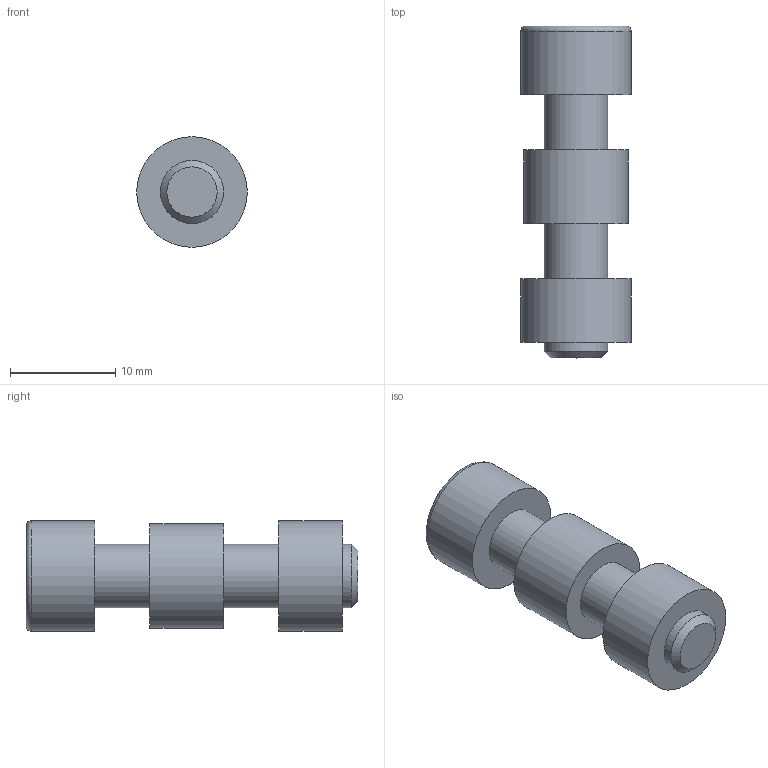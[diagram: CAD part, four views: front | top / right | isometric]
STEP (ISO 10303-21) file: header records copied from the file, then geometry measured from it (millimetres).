
FILE_DESCRIPTION( ( 'STEP AP203' ), '1' );
FILE_NAME( 'C:/Temp/Ganter_Step_05_03_2020/data/3_7/511_1/gn_511_1_s/Swivel clamp mounting GN 511.1-M6-30-S.stp', '2020-03-12T14:38:02', ( 'License CC BY-ND 4.0' ), ( 'CADENAS' ), ' ', 'PARTsolutions', ' ' );
FILE_SCHEMA( ( 'CONFIG_CONTROL_DESIGN' ) );
Length unit declared in the file: millimetre
Products named in the file (1): _Swivel clamp mounting GN 511.1-M6-30-S
Bounding box: 10.5 x 31.5 x 10.5 mm (x, y, z)
Volume: 1890.5 mm3; surface area: 1281 mm2
Topology: 1 solids, 1 shells, 22 faces, 41 edges, 27 vertices
Faces by surface type: plane 14, cylinder 6, cone 1, torus 1
Full cylindrical faces by diameter (mm): 6 x3, 9.9 x1, 10.5 x2
Entity records: 546 total; most frequent: DIRECTION 92, CARTESIAN_POINT 81, ORIENTED_EDGE 64, AXIS2_PLACEMENT_3D 37, EDGE_LOOP 36, EDGE_CURVE 32, FACE_OUTER_BOUND 29, VERTEX_POINT 26
